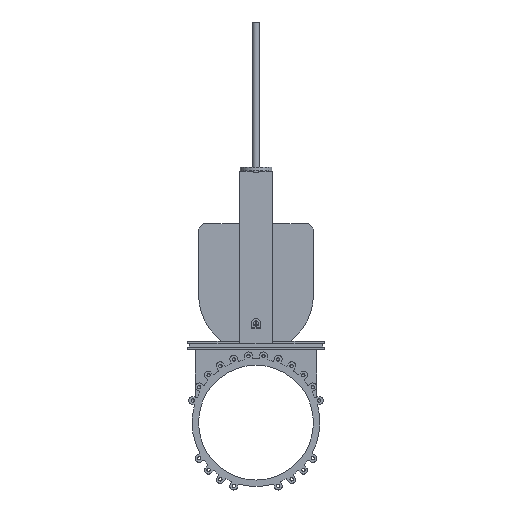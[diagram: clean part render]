
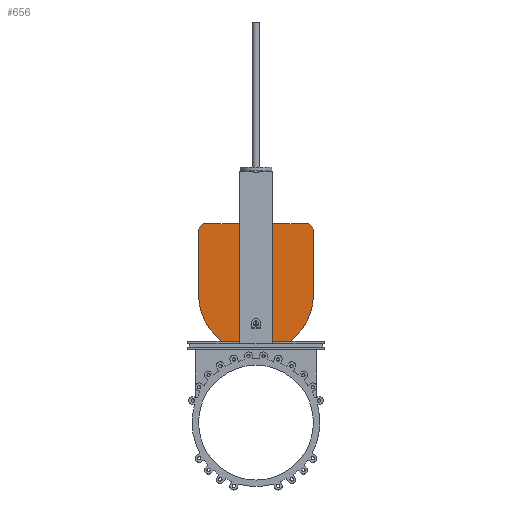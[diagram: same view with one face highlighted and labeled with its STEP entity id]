
A CAD part, front view. The second image highlights one B-rep face of the part: STEP entity #656.
In plain terms, the highlighted planar face has unit normal (0, -1, 0).
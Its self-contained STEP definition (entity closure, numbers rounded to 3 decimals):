
#656=ADVANCED_FACE('',(#4248),#4250,.T.);
#4248=FACE_BOUND('',#4249,.T.);
#4249=EDGE_LOOP('',(#7227,#7228,#7229,#7230,#7231,#7232,#7233,#7234,#7235,#7236,
#7237,#7238));
#4250=PLANE('',#4251);
#4251=AXIS2_PLACEMENT_3D('',#4252,#4253,#4254);
#4252=CARTESIAN_POINT('',(0.,-7.,0.));
#4253=DIRECTION('',(0.,-1.,0.));
#4254=DIRECTION('',(1.,0.,0.));
#7227=ORIENTED_EDGE('',*,*,#9151,.F.);
#7228=ORIENTED_EDGE('',*,*,#9183,.T.);
#7229=ORIENTED_EDGE('',*,*,#9184,.T.);
#7230=ORIENTED_EDGE('',*,*,#9185,.F.);
#7231=ORIENTED_EDGE('',*,*,#9186,.T.);
#7232=ORIENTED_EDGE('',*,*,#9187,.F.);
#7233=ORIENTED_EDGE('',*,*,#9188,.F.);
#7234=ORIENTED_EDGE('',*,*,#9189,.F.);
#7235=ORIENTED_EDGE('',*,*,#9190,.T.);
#7236=ORIENTED_EDGE('',*,*,#9191,.F.);
#7237=ORIENTED_EDGE('',*,*,#9192,.T.);
#7238=ORIENTED_EDGE('',*,*,#9193,.T.);
#9151=EDGE_CURVE('',#10325,#10327,#10328,.T.);
#9183=EDGE_CURVE('',#10325,#10387,#10389,.T.);
#9184=EDGE_CURVE('',#10387,#10390,#10391,.T.);
#9185=EDGE_CURVE('',#10392,#10390,#10393,.F.);
#9186=EDGE_CURVE('',#10392,#10394,#10395,.T.);
#9187=EDGE_CURVE('',#10396,#10394,#10397,.T.);
#9188=EDGE_CURVE('',#10398,#10396,#10399,.F.);
#9189=EDGE_CURVE('',#10400,#10398,#10401,.T.);
#9190=EDGE_CURVE('',#10400,#10402,#10403,.T.);
#9191=EDGE_CURVE('',#10404,#10402,#10405,.F.);
#9192=EDGE_CURVE('',#10404,#10406,#10407,.T.);
#9193=EDGE_CURVE('',#10406,#10327,#10408,.T.);
#10325=VERTEX_POINT('',#12489);
#10327=VERTEX_POINT('',#12493);
#10328=LINE('',#12494,#12495);
#10387=VERTEX_POINT('',#12631);
#10389=CIRCLE('',#12635,450.);
#10390=VERTEX_POINT('',#12639);
#10391=LINE('',#12640,#12641);
#10392=VERTEX_POINT('',#12643);
#10393=LINE('',#12644,#12645);
#10394=VERTEX_POINT('',#12647);
#10395=LINE('',#12648,#12649);
#10396=VERTEX_POINT('',#12651);
#10397=LINE('',#12652,#12653);
#10398=VERTEX_POINT('',#12655);
#10399=LINE('',#12656,#12657);
#10400=VERTEX_POINT('',#12659);
#10401=LINE('',#12660,#12661);
#10402=VERTEX_POINT('',#12663);
#10403=LINE('',#12664,#12665);
#10404=VERTEX_POINT('',#12667);
#10405=LINE('',#12668,#12669);
#10406=VERTEX_POINT('',#12671);
#10407=LINE('',#12672,#12673);
#10408=CIRCLE('',#12675,450.);
#12489=CARTESIAN_POINT('',(266.634,-7.,637.5));
#12493=CARTESIAN_POINT('',(-266.634,-7.,637.5));
#12494=CARTESIAN_POINT('',(266.634,-7.,637.5));
#12495=VECTOR('',#12496,1.);
#12496=DIRECTION('',(-1.,0.,0.));
#12631=CARTESIAN_POINT('',(450.,-7.,1000.));
#12635=AXIS2_PLACEMENT_3D('',#12636,#12637,#12638);
#12636=CARTESIAN_POINT('',(0.,-7.,1000.));
#12637=DIRECTION('',(0.,-1.,0.));
#12638=DIRECTION('',(0.593,0.,-0.806));
#12639=CARTESIAN_POINT('',(450.,-7.,1517.5));
#12640=CARTESIAN_POINT('',(450.,-7.,1000.));
#12641=VECTOR('',#12642,1.);
#12642=DIRECTION('',(0.,0.,1.));
#12643=CARTESIAN_POINT('',(410.,-7.,1557.5));
#12644=CARTESIAN_POINT('',(450.,-7.,1517.5));
#12645=VECTOR('',#12646,1.);
#12646=DIRECTION('',(-0.707,0.,0.707));
#12647=CARTESIAN_POINT('',(75.,-7.,1557.5));
#12648=CARTESIAN_POINT('',(410.,-7.,1557.5));
#12649=VECTOR('',#12650,1.);
#12650=DIRECTION('',(-1.,0.,0.));
#12651=CARTESIAN_POINT('',(75.,-7.,1552.5));
#12652=CARTESIAN_POINT('',(75.,-7.,1552.5));
#12653=VECTOR('',#12654,1.);
#12654=DIRECTION('',(0.,0.,1.));
#12655=CARTESIAN_POINT('',(-75.,-7.,1552.5));
#12656=CARTESIAN_POINT('',(75.,-7.,1552.5));
#12657=VECTOR('',#12658,1.);
#12658=DIRECTION('',(-1.,0.,0.));
#12659=CARTESIAN_POINT('',(-75.,-7.,1557.5));
#12660=CARTESIAN_POINT('',(-75.,-7.,1557.5));
#12661=VECTOR('',#12662,1.);
#12662=DIRECTION('',(0.,0.,-1.));
#12663=CARTESIAN_POINT('',(-410.,-7.,1557.5));
#12664=CARTESIAN_POINT('',(-75.,-7.,1557.5));
#12665=VECTOR('',#12666,1.);
#12666=DIRECTION('',(-1.,0.,0.));
#12667=CARTESIAN_POINT('',(-450.,-7.,1517.5));
#12668=CARTESIAN_POINT('',(-410.,-7.,1557.5));
#12669=VECTOR('',#12670,1.);
#12670=DIRECTION('',(-0.707,0.,-0.707));
#12671=CARTESIAN_POINT('',(-450.,-7.,1000.));
#12672=CARTESIAN_POINT('',(-450.,-7.,1517.5));
#12673=VECTOR('',#12674,1.);
#12674=DIRECTION('',(0.,0.,-1.));
#12675=AXIS2_PLACEMENT_3D('',#12676,#12677,#12678);
#12676=CARTESIAN_POINT('',(0.,-7.,1000.));
#12677=DIRECTION('',(0.,-1.,0.));
#12678=DIRECTION('',(-1.,0.,0.));
